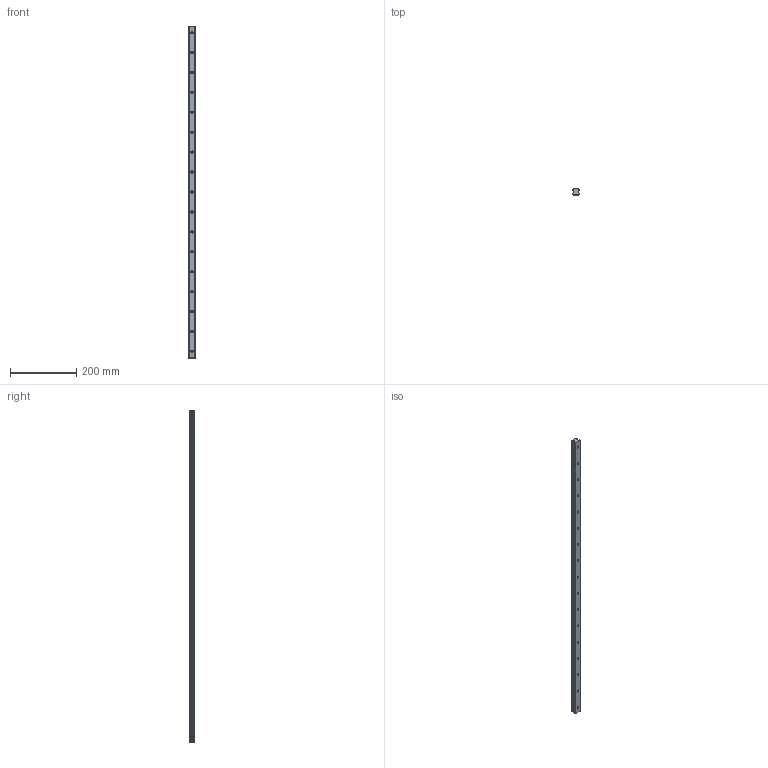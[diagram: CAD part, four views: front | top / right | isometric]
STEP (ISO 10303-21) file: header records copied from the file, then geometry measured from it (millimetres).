
FILE_DESCRIPTION(/* description */ (''),/* implementation_level */ '2;1');
FILE_NAME(/* name */ 'C:\Users\daviddillkoetter\ownCloud\Kamp und Kötter\Artikel\KPN_Profilführungen\Step\KPNR-20.stp',/* time_stamp */ '2021-01-27T11:19:04+01:00',/* author */ ('daviddillkoetter'),/* organization */ (''),/* preprocessor_version */ 'ST-DEVELOPER v18.1',/* originating_system */ 'Autodesk Inventor 2021',/* authorisation */ '');
FILE_SCHEMA (('AUTOMOTIVE_DESIGN { 1 0 10303 214 3 1 1 }'));
Length unit declared in the file: millimetre
Products named in the file (1): KPNR
Bounding box: 20 x 17.5 x 1000 mm (x, y, z)
Volume: 278797.2 mm3; surface area: 84432.9 mm2
Topology: 1 solids, 1 shells, 154 faces, 378 edges, 243 vertices
Faces by surface type: plane 61, cylinder 51, cone 42
Full cylindrical faces by diameter (mm): 6 x17, 9.5 x17
Entity records: 4766 total; most frequent: CARTESIAN_POINT 914, DIRECTION 831, ORIENTED_EDGE 756, EDGE_CURVE 378, AXIS2_PLACEMENT_3D 328, VERTEX_POINT 243, EDGE_LOOP 205, LINE 175
